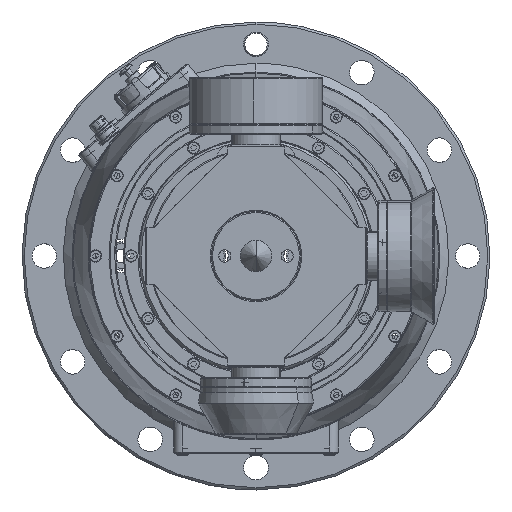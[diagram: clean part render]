
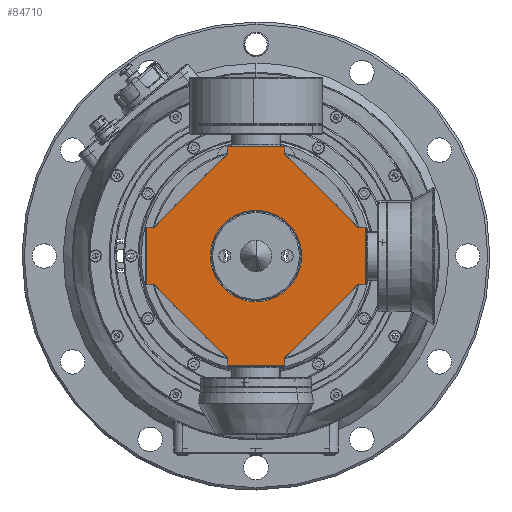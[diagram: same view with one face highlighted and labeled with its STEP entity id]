
A CAD part, front view. The second image highlights one B-rep face of the part: STEP entity #84710.
In plain terms, the highlighted planar face has unit normal (0, -1, 0).
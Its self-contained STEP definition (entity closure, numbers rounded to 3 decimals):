
#229 = LINE ( 'NONE', #45024, #18517 ) ;
#1710 = LINE ( 'NONE', #16717, #27273 ) ;
#1741 = CARTESIAN_POINT ( 'NONE',  ( 13., -30., 49. ) ) ;
#2592 = EDGE_CURVE ( 'NONE', #18158, #75206, #16027, .T. ) ;
#3210 = DIRECTION ( 'NONE',  ( 0., 0., 1. ) ) ;
#3568 = CARTESIAN_POINT ( 'NONE',  ( 13., -30., -45.5 ) ) ;
#4509 = LINE ( 'NONE', #13653, #81608 ) ;
#5004 = ORIENTED_EDGE ( 'NONE', *, *, #85495, .T. ) ;
#5053 = CARTESIAN_POINT ( 'NONE',  ( 49., -30., 13. ) ) ;
#5452 = VECTOR ( 'NONE', #65154, 1000. ) ;
#6000 = CARTESIAN_POINT ( 'NONE',  ( 45.5, -30., 13. ) ) ;
#6212 = ORIENTED_EDGE ( 'NONE', *, *, #86547, .T. ) ;
#7206 = DIRECTION ( 'NONE',  ( 0.707, 0., 0.707 ) ) ;
#7481 = CARTESIAN_POINT ( 'NONE',  ( -13., -30., 45.5 ) ) ;
#7752 = DIRECTION ( 'NONE',  ( 0., 0., -1. ) ) ;
#9088 = ORIENTED_EDGE ( 'NONE', *, *, #52672, .T. ) ;
#11358 = CARTESIAN_POINT ( 'NONE',  ( -13., -30., 49. ) ) ;
#11749 = DIRECTION ( 'NONE',  ( -1., 0., 0. ) ) ;
#12135 = CARTESIAN_POINT ( 'NONE',  ( -13., -30., -49.5 ) ) ;
#13653 = CARTESIAN_POINT ( 'NONE',  ( -45.5, -30., 13. ) ) ;
#13762 = DIRECTION ( 'NONE',  ( 1., 0., 0. ) ) ;
#13926 = VECTOR ( 'NONE', #23594, 1000. ) ;
#14427 = CARTESIAN_POINT ( 'NONE',  ( 13., -30., 49.5 ) ) ;
#15056 = VERTEX_POINT ( 'NONE', #86081 ) ;
#16027 = CIRCLE ( 'NONE', #69670, 20.5 ) ;
#16558 = VERTEX_POINT ( 'NONE', #21532 ) ;
#16717 = CARTESIAN_POINT ( 'NONE',  ( -13., -30., -45.5 ) ) ;
#17059 = DIRECTION ( 'NONE',  ( 0., 0., -1. ) ) ;
#18030 = VECTOR ( 'NONE', #7206, 1000. ) ;
#18158 = VERTEX_POINT ( 'NONE', #76095 ) ;
#18517 = VECTOR ( 'NONE', #13762, 1000. ) ;
#19299 = LINE ( 'NONE', #14427, #85120 ) ;
#19300 = VECTOR ( 'NONE', #55650, 1000. ) ;
#19391 = ORIENTED_EDGE ( 'NONE', *, *, #58288, .T. ) ;
#21532 = CARTESIAN_POINT ( 'NONE',  ( -45.5, -30., -13. ) ) ;
#22196 = VECTOR ( 'NONE', #52625, 1000. ) ;
#22911 = DIRECTION ( 'NONE',  ( 0., 0., 1. ) ) ;
#22928 = CARTESIAN_POINT ( 'NONE',  ( 0., -30., -20.5 ) ) ;
#23594 = DIRECTION ( 'NONE',  ( 1., 0., 0. ) ) ;
#23794 = ORIENTED_EDGE ( 'NONE', *, *, #41864, .T. ) ;
#24169 = LINE ( 'NONE', #82667, #28340 ) ;
#25753 = DIRECTION ( 'NONE',  ( 1., 0., 0. ) ) ;
#26366 = VERTEX_POINT ( 'NONE', #3568 ) ;
#26430 = AXIS2_PLACEMENT_3D ( 'NONE', #68317, #66402, #66887 ) ;
#27273 = VECTOR ( 'NONE', #75254, 1000. ) ;
#28340 = VECTOR ( 'NONE', #7752, 1000. ) ;
#30503 = ORIENTED_EDGE ( 'NONE', *, *, #63194, .T. ) ;
#30634 = DIRECTION ( 'NONE',  ( 0., -1., 0. ) ) ;
#31525 = CARTESIAN_POINT ( 'NONE',  ( -45.5, -30., 13. ) ) ;
#32632 = ORIENTED_EDGE ( 'NONE', *, *, #61525, .T. ) ;
#32811 = CARTESIAN_POINT ( 'NONE',  ( 13., -30., 45.5 ) ) ;
#33151 = LINE ( 'NONE', #78187, #19300 ) ;
#34140 = LINE ( 'NONE', #72436, #37264 ) ;
#35917 = LINE ( 'NONE', #6000, #78913 ) ;
#36016 = EDGE_CURVE ( 'NONE', #26366, #85567, #93241, .T. ) ;
#36437 = PLANE ( 'NONE',  #66467 ) ;
#36566 = EDGE_CURVE ( 'NONE', #15056, #92845, #38295, .T. ) ;
#36611 = CARTESIAN_POINT ( 'NONE',  ( 13., -30., -45.5 ) ) ;
#37264 = VECTOR ( 'NONE', #64282, 1000. ) ;
#37776 = CARTESIAN_POINT ( 'NONE',  ( 13., -30., 45.5 ) ) ;
#37878 = CARTESIAN_POINT ( 'NONE',  ( -13., -30., -49. ) ) ;
#38036 = LINE ( 'NONE', #87905, #13926 ) ;
#38295 = LINE ( 'NONE', #45026, #51789 ) ;
#39230 = LINE ( 'NONE', #75648, #87317 ) ;
#41280 = ORIENTED_EDGE ( 'NONE', *, *, #2592, .T. ) ;
#41806 = EDGE_CURVE ( 'NONE', #87795, #26366, #66283, .T. ) ;
#41864 = EDGE_CURVE ( 'NONE', #85567, #15056, #38036, .T. ) ;
#42008 = VERTEX_POINT ( 'NONE', #85773 ) ;
#42164 = DIRECTION ( 'NONE',  ( -1., 0., 0. ) ) ;
#43633 = FACE_OUTER_BOUND ( 'NONE', #63642, .T. ) ;
#45008 = CARTESIAN_POINT ( 'NONE',  ( -13., -30., 45.5 ) ) ;
#45024 = CARTESIAN_POINT ( 'NONE',  ( 13., -30., -49. ) ) ;
#45026 = CARTESIAN_POINT ( 'NONE',  ( 49., -30., 13. ) ) ;
#45244 = CARTESIAN_POINT ( 'NONE',  ( 13., -30., -49.5 ) ) ;
#46847 = EDGE_CURVE ( 'NONE', #47723, #63267, #85106, .T. ) ;
#47723 = VERTEX_POINT ( 'NONE', #83398 ) ;
#48093 = VERTEX_POINT ( 'NONE', #59585 ) ;
#51789 = VECTOR ( 'NONE', #22911, 1000. ) ;
#52625 = DIRECTION ( 'NONE',  ( -0.707, 0., 0.707 ) ) ;
#52672 = EDGE_CURVE ( 'NONE', #42008, #16558, #39230, .T. ) ;
#54272 = VECTOR ( 'NONE', #93734, 1000. ) ;
#55073 = ORIENTED_EDGE ( 'NONE', *, *, #93401, .T. ) ;
#55345 = VECTOR ( 'NONE', #3210, 1000. ) ;
#55650 = DIRECTION ( 'NONE',  ( -1., 0., 0. ) ) ;
#58288 = EDGE_CURVE ( 'NONE', #61025, #69063, #4509, .T. ) ;
#58916 = LINE ( 'NONE', #7481, #5452 ) ;
#59432 = VERTEX_POINT ( 'NONE', #11358 ) ;
#59585 = CARTESIAN_POINT ( 'NONE',  ( 45.5, -30., 13. ) ) ;
#61025 = VERTEX_POINT ( 'NONE', #31525 ) ;
#61525 = EDGE_CURVE ( 'NONE', #91220, #61025, #58916, .T. ) ;
#61693 = DIRECTION ( 'NONE',  ( 0., 1., 0. ) ) ;
#63194 = EDGE_CURVE ( 'NONE', #16558, #47723, #1710, .T. ) ;
#63265 = ORIENTED_EDGE ( 'NONE', *, *, #84269, .T. ) ;
#63267 = VERTEX_POINT ( 'NONE', #37878 ) ;
#63517 = CARTESIAN_POINT ( 'NONE',  ( -49., -30., 13. ) ) ;
#63642 = EDGE_LOOP ( 'NONE', ( #23794, #85955, #84618, #5004, #6212, #66231, #63265, #32632, #19391, #68535, #9088, #30503, #82533, #83043, #76874, #87428 ) ) ;
#63949 = VERTEX_POINT ( 'NONE', #32811 ) ;
#64282 = DIRECTION ( 'NONE',  ( 0., 0., -1. ) ) ;
#65154 = DIRECTION ( 'NONE',  ( -0.707, 0., -0.707 ) ) ;
#66231 = ORIENTED_EDGE ( 'NONE', *, *, #86721, .T. ) ;
#66283 = LINE ( 'NONE', #45244, #55345 ) ;
#66402 = DIRECTION ( 'NONE',  ( 0., 1., 0. ) ) ;
#66467 = AXIS2_PLACEMENT_3D ( 'NONE', #67563, #30634, #81935 ) ;
#66887 = DIRECTION ( 'NONE',  ( 0., 0., -1. ) ) ;
#67563 = CARTESIAN_POINT ( 'NONE',  ( 0., -30., 0. ) ) ;
#68317 = CARTESIAN_POINT ( 'NONE',  ( 0., -30., 0. ) ) ;
#68535 = ORIENTED_EDGE ( 'NONE', *, *, #93845, .T. ) ;
#68663 = EDGE_CURVE ( 'NONE', #92845, #48093, #35917, .T. ) ;
#69063 = VERTEX_POINT ( 'NONE', #63517 ) ;
#69670 = AXIS2_PLACEMENT_3D ( 'NONE', #88577, #61693, #17059 ) ;
#70444 = CARTESIAN_POINT ( 'NONE',  ( 13., -30., -49. ) ) ;
#72436 = CARTESIAN_POINT ( 'NONE',  ( -49., -30., -13. ) ) ;
#73263 = LINE ( 'NONE', #37776, #22196 ) ;
#74041 = CARTESIAN_POINT ( 'NONE',  ( 45.5, -30., -13. ) ) ;
#74761 = FACE_BOUND ( 'NONE', #90313, .T. ) ;
#75206 = VERTEX_POINT ( 'NONE', #22928 ) ;
#75254 = DIRECTION ( 'NONE',  ( 0.707, 0., -0.707 ) ) ;
#75648 = CARTESIAN_POINT ( 'NONE',  ( -45.5, -30., -13. ) ) ;
#76095 = CARTESIAN_POINT ( 'NONE',  ( 0., -30., 20.5 ) ) ;
#76874 = ORIENTED_EDGE ( 'NONE', *, *, #41806, .T. ) ;
#78187 = CARTESIAN_POINT ( 'NONE',  ( -13., -30., 49. ) ) ;
#78913 = VECTOR ( 'NONE', #42164, 1000. ) ;
#81608 = VECTOR ( 'NONE', #11749, 1000. ) ;
#81935 = DIRECTION ( 'NONE',  ( 0., 0., -1. ) ) ;
#82533 = ORIENTED_EDGE ( 'NONE', *, *, #46847, .T. ) ;
#82661 = EDGE_CURVE ( 'NONE', #63267, #87795, #229, .T. ) ;
#82667 = CARTESIAN_POINT ( 'NONE',  ( -13., -30., 49.5 ) ) ;
#83043 = ORIENTED_EDGE ( 'NONE', *, *, #82661, .T. ) ;
#83107 = CIRCLE ( 'NONE', #26430, 20.5 ) ;
#83398 = CARTESIAN_POINT ( 'NONE',  ( -13., -30., -45.5 ) ) ;
#84269 = EDGE_CURVE ( 'NONE', #59432, #91220, #24169, .T. ) ;
#84618 = ORIENTED_EDGE ( 'NONE', *, *, #68663, .T. ) ;
#84710 = ADVANCED_FACE ( 'NONE', ( #74761, #43633 ), #36437, .T. ) ;
#85106 = LINE ( 'NONE', #12135, #54272 ) ;
#85120 = VECTOR ( 'NONE', #88831, 1000. ) ;
#85495 = EDGE_CURVE ( 'NONE', #48093, #63949, #73263, .T. ) ;
#85567 = VERTEX_POINT ( 'NONE', #74041 ) ;
#85773 = CARTESIAN_POINT ( 'NONE',  ( -49., -30., -13. ) ) ;
#85955 = ORIENTED_EDGE ( 'NONE', *, *, #36566, .T. ) ;
#86081 = CARTESIAN_POINT ( 'NONE',  ( 49., -30., -13. ) ) ;
#86547 = EDGE_CURVE ( 'NONE', #63949, #93981, #19299, .T. ) ;
#86721 = EDGE_CURVE ( 'NONE', #93981, #59432, #33151, .T. ) ;
#87317 = VECTOR ( 'NONE', #25753, 1000. ) ;
#87428 = ORIENTED_EDGE ( 'NONE', *, *, #36016, .T. ) ;
#87795 = VERTEX_POINT ( 'NONE', #70444 ) ;
#87905 = CARTESIAN_POINT ( 'NONE',  ( 45.5, -30., -13. ) ) ;
#88577 = CARTESIAN_POINT ( 'NONE',  ( 0., -30., 0. ) ) ;
#88831 = DIRECTION ( 'NONE',  ( 0., 0., 1. ) ) ;
#90313 = EDGE_LOOP ( 'NONE', ( #55073, #41280 ) ) ;
#91220 = VERTEX_POINT ( 'NONE', #45008 ) ;
#92845 = VERTEX_POINT ( 'NONE', #5053 ) ;
#93241 = LINE ( 'NONE', #36611, #18030 ) ;
#93401 = EDGE_CURVE ( 'NONE', #75206, #18158, #83107, .T. ) ;
#93734 = DIRECTION ( 'NONE',  ( 0., 0., -1. ) ) ;
#93845 = EDGE_CURVE ( 'NONE', #69063, #42008, #34140, .T. ) ;
#93981 = VERTEX_POINT ( 'NONE', #1741 ) ;
